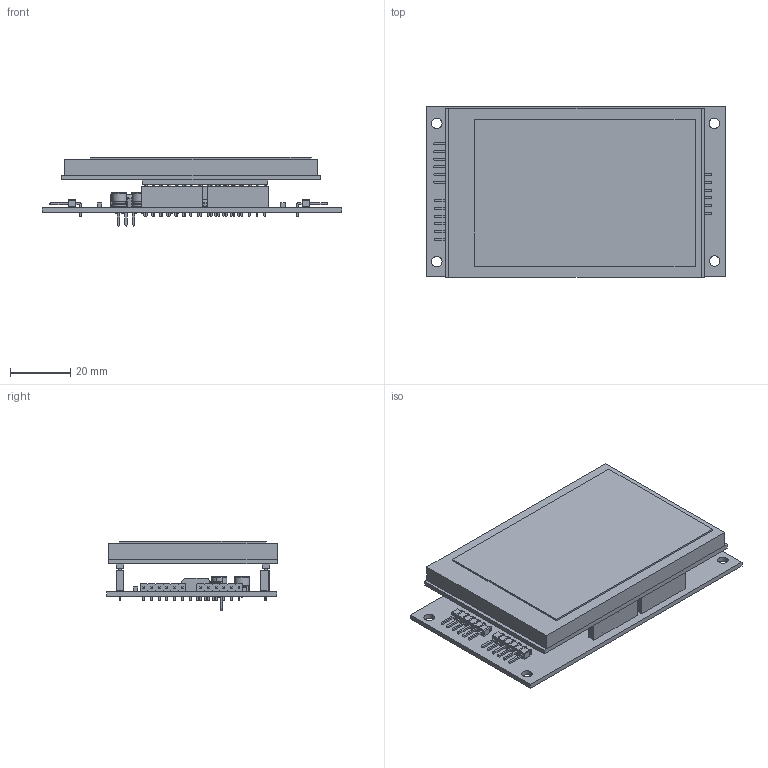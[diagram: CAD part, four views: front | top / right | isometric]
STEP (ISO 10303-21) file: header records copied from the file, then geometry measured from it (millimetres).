
FILE_DESCRIPTION(/* description */ ('VariCAD 2014-2.05 AP-214'),/* implementation_level */ '2;1');
FILE_NAME(/* name */ 'FensterE3kpl.stp',/* time_stamp */ '2026-02-12T09:35:31+01:00',/* author */ (''),/* organization */ (''),/* preprocessor_version */ 'ST-DEVELOPER v14',/* originating_system */ 'VariCAD 2014-2.05; kernel version (20130303)',/* authorisation */ '');
FILE_SCHEMA (('AUTOMOTIVE_DESIGN'));
Products named in the file (20): FensterE3kpl; COMPOUND; SOLID
Assembly tree (19 placements, depth 2):
  FensterE3kpl
    COMPOUND
    SOLID
    SOLID
    SOLID
    SOLID
    SOLID
    SOLID
    SOLID
    SOLID
    SOLID
    SOLID
    SOLID
    SOLID
    SOLID
    SOLID
    SOLID
    SOLID
    SOLID
    (unnamed)
Bounding box: 99.5 x 56.55 x 23.01 mm (x, y, z)
Volume: 46348.2 mm3; surface area: 29613.4 mm2
Topology: 49 solids, 52 shells, 2388 faces, 6124 edges, 3966 vertices
Faces by surface type: plane 1935, cylinder 420, torus 21, bspline 12
Entity records: 77158 total; most frequent: CARTESIAN_POINT 17876, ORIENTED_EDGE 12236, DIRECTION 11749, EDGE_CURVE 6118, LINE 5111, VECTOR 5111, VERTEX_POINT 3960, AXIS2_PLACEMENT_3D 3319
